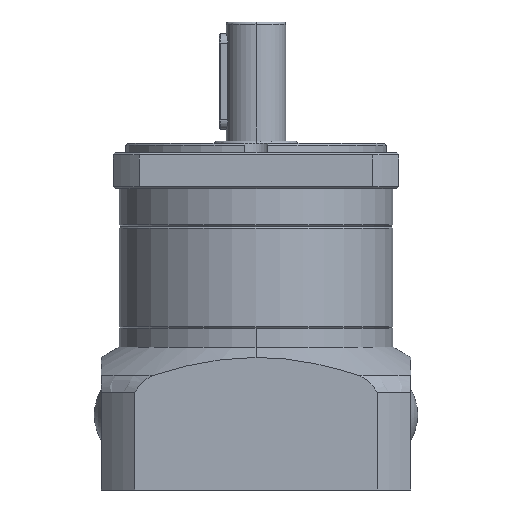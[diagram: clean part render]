
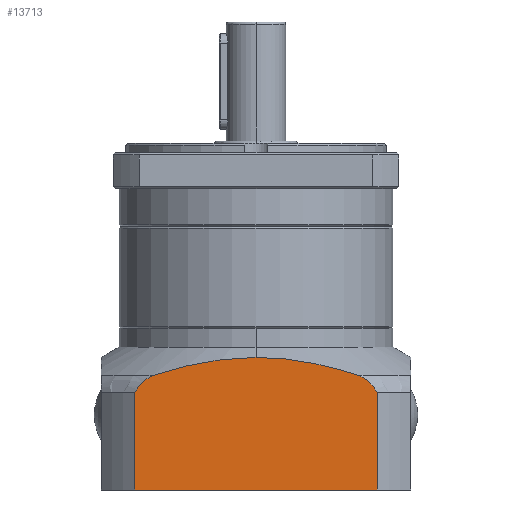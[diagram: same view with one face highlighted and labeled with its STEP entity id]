
A CAD part, left-side view. The second image highlights one B-rep face of the part: STEP entity #13713.
In plain terms, the highlighted planar face has unit normal (-1, 0, 0) as drawn and (1, 0, 0) by its records, which use the part's own axes.
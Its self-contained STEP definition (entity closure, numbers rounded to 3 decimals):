
#170 = VERTEX_POINT ( 'NONE', #22424 ) ;
#574 = CARTESIAN_POINT ( 'NONE',  ( 65., -50.806, 20.73 ) ) ;
#767 = ORIENTED_EDGE ( 'NONE', *, *, #26958, .T. ) ;
#839 = DIRECTION ( 'NONE',  ( 0., 0., 1. ) ) ;
#2374 = CARTESIAN_POINT ( 'NONE',  ( 65., -44.013, 29.267 ) ) ;
#2990 = CARTESIAN_POINT ( 'NONE',  ( 65., -50.806, 77. ) ) ;
#3313 = DIRECTION ( 'NONE',  ( -1., 0., 0. ) ) ;
#3316 = CARTESIAN_POINT ( 'NONE',  ( 65., 29.088, 24.728 ) ) ;
#3341 = VECTOR ( 'NONE', #13168, 1000. ) ;
#3396 = EDGE_LOOP ( 'NONE', ( #23927, #767, #26360, #21929, #11493, #5624, #10074 ) ) ;
#3405 = PLANE ( 'NONE',  #5013 ) ;
#3528 = CARTESIAN_POINT ( 'NONE',  ( 65., 3.71, 21.33 ) ) ;
#3603 = LINE ( 'NONE', #13238, #3341 ) ;
#4472 = FACE_OUTER_BOUND ( 'NONE', #3396, .T. ) ;
#4654 = CARTESIAN_POINT ( 'NONE',  ( 65., -50.806, 77. ) ) ;
#4703 = LINE ( 'NONE', #4654, #4805 ) ;
#4805 = VECTOR ( 'NONE', #18494, 1000. ) ;
#5013 = AXIS2_PLACEMENT_3D ( 'NONE', #574, #3313, #839 ) ;
#5624 = ORIENTED_EDGE ( 'NONE', *, *, #16999, .T. ) ;
#5792 = CARTESIAN_POINT ( 'NONE',  ( 65., -50.806, 36.159 ) ) ;
#6187 = CARTESIAN_POINT ( 'NONE',  ( 65., 43.206, 28.864 ) ) ;
#6211 = CARTESIAN_POINT ( 'NONE',  ( 65., 36.178, 26.618 ) ) ;
#6277 = CARTESIAN_POINT ( 'NONE',  ( 65., 18.304, 22.74 ) ) ;
#6301 = CARTESIAN_POINT ( 'NONE',  ( 65., 14.685, 22.22 ) ) ;
#6307 = CARTESIAN_POINT ( 'NONE',  ( 65., 7.388, 21.515 ) ) ;
#6367 = CARTESIAN_POINT ( 'NONE',  ( 65., 0., 21.33 ) ) ;
#6759 = CARTESIAN_POINT ( 'NONE',  ( 65., 50.806, 77. ) ) ;
#6785 = CARTESIAN_POINT ( 'NONE',  ( 65., -43.206, 28.864 ) ) ;
#6867 = CARTESIAN_POINT ( 'NONE',  ( 65., -36.178, 26.618 ) ) ;
#6966 = CARTESIAN_POINT ( 'NONE',  ( 65., -29.088, 24.728 ) ) ;
#6971 = CARTESIAN_POINT ( 'NONE',  ( 65., -18.304, 22.74 ) ) ;
#7000 = CARTESIAN_POINT ( 'NONE',  ( 65., -14.685, 22.22 ) ) ;
#7003 = CARTESIAN_POINT ( 'NONE',  ( 65., -7.388, 21.515 ) ) ;
#7041 = CARTESIAN_POINT ( 'NONE',  ( 65., -3.71, 21.33 ) ) ;
#7066 = CARTESIAN_POINT ( 'NONE',  ( 65., 0., 21.33 ) ) ;
#7337 = B_SPLINE_CURVE_WITH_KNOTS ( 'NONE', 3,
 ( #6367, #3528, #6307, #6301, #6277, #3316, #6211, #6187 ),
 .UNSPECIFIED., .F., .F.,
 ( 4, 2, 2, 4 ),
 ( 0.044, 0.055, 0.066, 0.088 ),
 .UNSPECIFIED. ) ;
#8186 = CARTESIAN_POINT ( 'NONE',  ( 65., -43.206, 28.864 ) ) ;
#9263 = CARTESIAN_POINT ( 'NONE',  ( 65., -43.206, 28.864 ) ) ;
#9302 = CARTESIAN_POINT ( 'NONE',  ( 65., 50.806, 36.159 ) ) ;
#9403 = CARTESIAN_POINT ( 'NONE',  ( 65., 50.447, 35.324 ) ) ;
#9462 = CARTESIAN_POINT ( 'NONE',  ( 65., 50.806, 36.159 ) ) ;
#9522 = CARTESIAN_POINT ( 'NONE',  ( 65., 49.99, 34.555 ) ) ;
#9531 = CARTESIAN_POINT ( 'NONE',  ( 65., 49.19, 33.48 ) ) ;
#9553 = CARTESIAN_POINT ( 'NONE',  ( 65., 48.904, 33.135 ) ) ;
#9558 = CARTESIAN_POINT ( 'NONE',  ( 65., 48.296, 32.469 ) ) ;
#9597 = CARTESIAN_POINT ( 'NONE',  ( 65., 47.974, 32.149 ) ) ;
#9634 = CARTESIAN_POINT ( 'NONE',  ( 65., 46.98, 31.242 ) ) ;
#9645 = VERTEX_POINT ( 'NONE', #6759 ) ;
#9657 = CARTESIAN_POINT ( 'NONE',  ( 65., 46.273, 30.699 ) ) ;
#9682 = VERTEX_POINT ( 'NONE', #8186 ) ;
#9717 = CARTESIAN_POINT ( 'NONE',  ( 65., 44.79, 29.712 ) ) ;
#9725 = CARTESIAN_POINT ( 'NONE',  ( 65., 44.013, 29.267 ) ) ;
#9754 = CARTESIAN_POINT ( 'NONE',  ( 65., -44.79, 29.712 ) ) ;
#9756 = CARTESIAN_POINT ( 'NONE',  ( 65., 43.206, 28.864 ) ) ;
#9759 = CARTESIAN_POINT ( 'NONE',  ( 65., -46.275, 30.7 ) ) ;
#9779 = EDGE_CURVE ( 'NONE', #9682, #14185, #16231, .T. ) ;
#9793 = CARTESIAN_POINT ( 'NONE',  ( 65., -46.983, 31.244 ) ) ;
#9827 = CARTESIAN_POINT ( 'NONE',  ( 65., -47.978, 32.153 ) ) ;
#9845 = CARTESIAN_POINT ( 'NONE',  ( 65., -48.3, 32.474 ) ) ;
#9870 = CARTESIAN_POINT ( 'NONE',  ( 65., -48.907, 33.138 ) ) ;
#9874 = CARTESIAN_POINT ( 'NONE',  ( 65., -49.192, 33.482 ) ) ;
#9905 = CARTESIAN_POINT ( 'NONE',  ( 65., -49.991, 34.556 ) ) ;
#9924 = CARTESIAN_POINT ( 'NONE',  ( 65., -50.447, 35.324 ) ) ;
#9932 = CARTESIAN_POINT ( 'NONE',  ( 65., -50.806, 36.159 ) ) ;
#10074 = ORIENTED_EDGE ( 'NONE', *, *, #9779, .F. ) ;
#11017 = CARTESIAN_POINT ( 'NONE',  ( 65., 0., 21.33 ) ) ;
#11382 = B_SPLINE_CURVE_WITH_KNOTS ( 'NONE', 3,
 ( #6785, #6867, #6966, #6971, #7000, #7003, #7041, #7066 ),
 .UNSPECIFIED., .F., .F.,
 ( 4, 2, 2, 4 ),
 ( 0., 0.022, 0.033, 0.044 ),
 .UNSPECIFIED. ) ;
#11493 = ORIENTED_EDGE ( 'NONE', *, *, #13650, .F. ) ;
#13116 = CARTESIAN_POINT ( 'NONE',  ( 65., -50.806, 56.08 ) ) ;
#13160 = DIRECTION ( 'NONE',  ( 0., 0., -1. ) ) ;
#13168 = DIRECTION ( 'NONE',  ( 0., 0., 1. ) ) ;
#13238 = CARTESIAN_POINT ( 'NONE',  ( 65., 50.806, 56.08 ) ) ;
#13650 = EDGE_CURVE ( 'NONE', #24550, #9645, #4703, .T. ) ;
#13713 = ADVANCED_FACE ( 'NONE', ( #4472 ), #3405, .F. ) ;
#14185 = VERTEX_POINT ( 'NONE', #5792 ) ;
#16231 = B_SPLINE_CURVE_WITH_KNOTS ( 'NONE', 3,
 ( #9263, #2374, #9754, #9759, #9793, #9827, #9845, #9870, #9874, #9905, #9924, #9932 ),
 .UNSPECIFIED., .F., .F.,
 ( 4, 2, 2, 2, 2, 4 ),
 ( 0., 0.003, 0.005, 0.007, 0.008, 0.011 ),
 .UNSPECIFIED. ) ;
#16999 = EDGE_CURVE ( 'NONE', #24550, #14185, #20981, .T. ) ;
#18494 = DIRECTION ( 'NONE',  ( 0., 1., 0. ) ) ;
#20981 = LINE ( 'NONE', #13116, #21031 ) ;
#21031 = VECTOR ( 'NONE', #13160, 1000. ) ;
#21929 = ORIENTED_EDGE ( 'NONE', *, *, #22525, .T. ) ;
#22108 = EDGE_CURVE ( 'NONE', #9682, #24848, #11382, .T. ) ;
#22256 = EDGE_CURVE ( 'NONE', #24440, #170, #28407, .T. ) ;
#22424 = CARTESIAN_POINT ( 'NONE',  ( 65., 43.206, 28.864 ) ) ;
#22525 = EDGE_CURVE ( 'NONE', #24440, #9645, #3603, .T. ) ;
#23927 = ORIENTED_EDGE ( 'NONE', *, *, #22108, .T. ) ;
#24440 = VERTEX_POINT ( 'NONE', #9462 ) ;
#24550 = VERTEX_POINT ( 'NONE', #2990 ) ;
#24848 = VERTEX_POINT ( 'NONE', #11017 ) ;
#26360 = ORIENTED_EDGE ( 'NONE', *, *, #22256, .F. ) ;
#26958 = EDGE_CURVE ( 'NONE', #24848, #170, #7337, .T. ) ;
#28407 = B_SPLINE_CURVE_WITH_KNOTS ( 'NONE', 3,
 ( #9302, #9403, #9522, #9531, #9553, #9558, #9597, #9634, #9657, #9717, #9725, #9756 ),
 .UNSPECIFIED., .F., .F.,
 ( 4, 2, 2, 2, 2, 4 ),
 ( 0., 0.003, 0.004, 0.005, 0.008, 0.011 ),
 .UNSPECIFIED. ) ;
